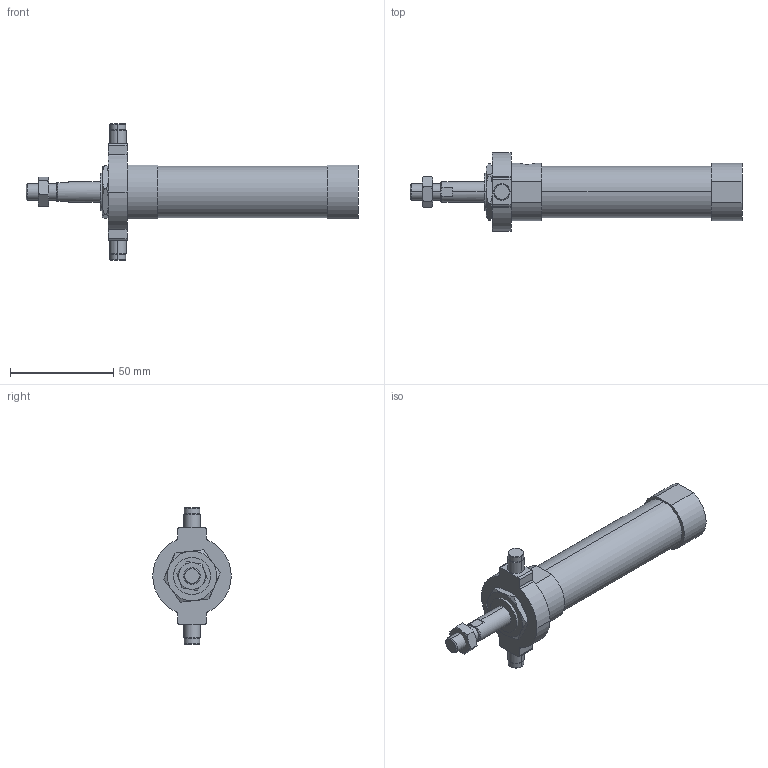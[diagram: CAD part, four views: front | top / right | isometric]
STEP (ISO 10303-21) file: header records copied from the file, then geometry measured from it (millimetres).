
FILE_DESCRIPTION (( 'STEP AP203' ), '1' );
FILE_NAME ('JGND0-20-15-T.STEP', '2016-08-04T02:03:18', ( '' ), ( '' ), 'SwSTEP 2.0', 'SolidWorks 2014', '' );
FILE_SCHEMA (( 'CONFIG_CONTROL_DESIGN' ));
Length unit declared in the file: millimetre
Products named in the file (5): J#2-20-T; JGND0-20-15-T; J#0-20-15(P)
Assembly tree (4 placements, depth 2):
  JGND0-20-15-T
    J#0-20-15(P)
    (unnamed)
    (unnamed)
    J#2-20-T
Bounding box: 161 x 38 x 66 mm (x, y, z)
Volume: 74471.8 mm3; surface area: 18312.5 mm2
Topology: 4 solids, 4 shells, 120 faces, 269 edges, 166 vertices
Faces by surface type: plane 43, cylinder 41, torus 24, cone 12
Entity records: 4146 total; most frequent: CARTESIAN_POINT 952, DIRECTION 585, ORIENTED_EDGE 538, EDGE_CURVE 269, AXIS2_PLACEMENT_3D 243, VERTEX_POINT 166, EDGE_LOOP 135, FACE_OUTER_BOUND 120
